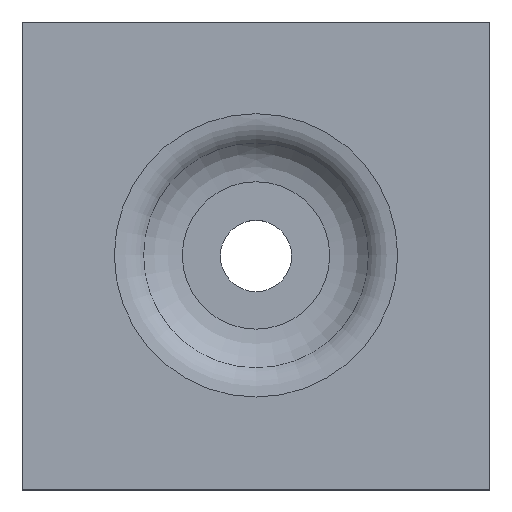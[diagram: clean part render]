
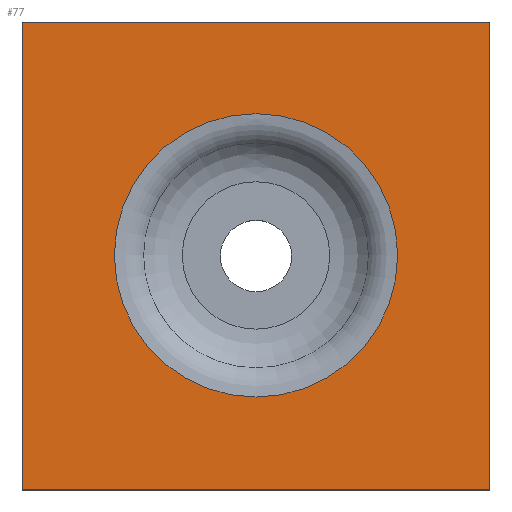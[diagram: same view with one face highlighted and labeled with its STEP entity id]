
A CAD part, top view. The second image highlights one B-rep face of the part: STEP entity #77.
In plain terms, the highlighted planar face has unit normal (0, 0, 1).
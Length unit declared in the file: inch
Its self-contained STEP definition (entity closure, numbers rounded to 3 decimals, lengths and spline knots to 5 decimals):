
#77=ADVANCED_FACE('',(#93,#94),#95,.T.);
#93=FACE_OUTER_BOUND('',#128,.T.);
#94=FACE_BOUND('',#129,.T.);
#95=PLANE('',#130);
#128=EDGE_LOOP('',(#173,#174,#175,#176));
#129=EDGE_LOOP('',(#177));
#130=AXIS2_PLACEMENT_3D('',#178,#179,#180);
#173=ORIENTED_EDGE('',*,*,#239,.T.);
#174=ORIENTED_EDGE('',*,*,#245,.T.);
#175=ORIENTED_EDGE('',*,*,#246,.T.);
#176=ORIENTED_EDGE('',*,*,#242,.T.);
#177=ORIENTED_EDGE('',*,*,#247,.T.);
#178=CARTESIAN_POINT('',(1.7034,4.2522,0.095));
#179=DIRECTION('',(0.0,0.0,1.0));
#180=DIRECTION('',(1.0,0.0,0.0));
#239=EDGE_CURVE('',#261,#258,#262,.T.);
#242=EDGE_CURVE('',#266,#261,#267,.T.);
#245=EDGE_CURVE('',#258,#271,#272,.T.);
#246=EDGE_CURVE('',#271,#266,#273,.T.);
#247=EDGE_CURVE('',#274,#274,#275,.T.);
#258=VERTEX_POINT('',#294);
#261=VERTEX_POINT('',#298);
#262=LINE('',#299,#300);
#266=VERTEX_POINT('',#306);
#267=LINE('',#307,#308);
#271=VERTEX_POINT('',#314);
#272=LINE('',#315,#316);
#273=LINE('',#317,#318);
#274=VERTEX_POINT('',#319);
#275=CIRCLE('',#320,0.45408);
#294=CARTESIAN_POINT('',(0.67125,3.23032,0.095));
#298=CARTESIAN_POINT('',(0.67125,1.73032,0.095));
#299=CARTESIAN_POINT('',(0.67125,8718.55593,0.095));
#300=VECTOR('',#343,1.0);
#306=CARTESIAN_POINT('',(-0.82875,1.73032,0.095));
#307=CARTESIAN_POINT('',(50453.24415,1.73032,0.095));
#308=VECTOR('',#346,1.0);
#314=CARTESIAN_POINT('',(-0.82875,3.23032,0.095));
#315=CARTESIAN_POINT('',(52908.9206,3.23032,0.095));
#316=VECTOR('',#349,1.0);
#317=CARTESIAN_POINT('',(-0.82875,16477.97825,0.095));
#318=VECTOR('',#350,1.0);
#319=CARTESIAN_POINT('',(-0.07875,2.93638,0.095));
#320=AXIS2_PLACEMENT_3D('',#351,#352,#353);
#343=DIRECTION('',(0.0,1.0,0.0));
#346=DIRECTION('',(1.0,0.0,-0.0));
#349=DIRECTION('',(-1.0,0.0,0.0));
#350=DIRECTION('',(0.0,-1.0,0.0));
#351=CARTESIAN_POINT('',(-0.07875,2.48229,0.095));
#352=DIRECTION('',(0.0,0.0,-1.0));
#353=DIRECTION('',(0.0,1.0,0.0));
